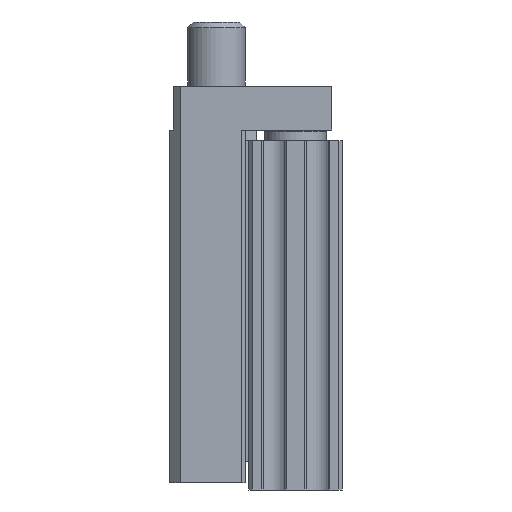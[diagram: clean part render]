
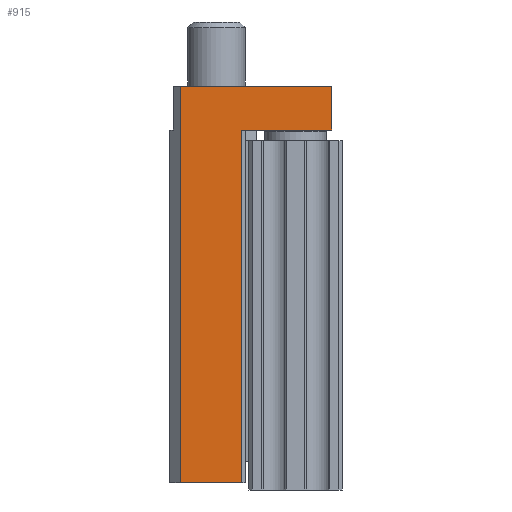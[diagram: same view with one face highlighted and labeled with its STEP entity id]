
A CAD part, left-side view. The second image highlights one B-rep face of the part: STEP entity #915.
In plain terms, the highlighted planar face has unit normal (-1, 0, 0).
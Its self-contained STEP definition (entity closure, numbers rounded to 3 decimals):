
#915 = ADVANCED_FACE( '', ( #2176 ), #2177, .T. );
#2176 = FACE_OUTER_BOUND( '', #3899, .T. );
#2177 = PLANE( '', #3900 );
#3899 = EDGE_LOOP( '', ( #6385, #6386, #6387, #6388, #6389, #6390 ) );
#3900 = AXIS2_PLACEMENT_3D( '', #6391, #6392, #6393 );
#6385 = ORIENTED_EDGE( '', *, *, #10071, .T. );
#6386 = ORIENTED_EDGE( '', *, *, #10072, .T. );
#6387 = ORIENTED_EDGE( '', *, *, #10073, .F. );
#6388 = ORIENTED_EDGE( '', *, *, #10074, .F. );
#6389 = ORIENTED_EDGE( '', *, *, #9527, .F. );
#6390 = ORIENTED_EDGE( '', *, *, #10075, .T. );
#6391 = CARTESIAN_POINT( '', ( -20., 22.5, -49. ) );
#6392 = DIRECTION( '', ( -1., 0., 0. ) );
#6393 = DIRECTION( '', ( 0., 0., 1. ) );
#9527 = EDGE_CURVE( '', #11290, #11292, #11293, .T. );
#10071 = EDGE_CURVE( '', #12193, #12194, #12195, .T. );
#10072 = EDGE_CURVE( '', #12194, #12196, #12197, .T. );
#10073 = EDGE_CURVE( '', #12198, #12196, #12199, .T. );
#10074 = EDGE_CURVE( '', #11292, #12198, #12200, .T. );
#10075 = EDGE_CURVE( '', #11290, #12193, #12201, .T. );
#11290 = VERTEX_POINT( '', #13824 );
#11292 = VERTEX_POINT( '', #13827 );
#11293 = LINE( '', #13828, #13829 );
#12193 = VERTEX_POINT( '', #15073 );
#12194 = VERTEX_POINT( '', #15074 );
#12195 = LINE( '', #15075, #15076 );
#12196 = VERTEX_POINT( '', #15077 );
#12197 = LINE( '', #15078, #15079 );
#12198 = VERTEX_POINT( '', #15080 );
#12199 = LINE( '', #15081, #15082 );
#12200 = LINE( '', #15083, #15084 );
#12201 = LINE( '', #15085, #15086 );
#13824 = CARTESIAN_POINT( '', ( -20., 22.5, -49. ) );
#13827 = CARTESIAN_POINT( '', ( -20., 22.5, 6. ) );
#13828 = CARTESIAN_POINT( '', ( -20., 22.5, -49. ) );
#13829 = VECTOR( '', #16886, 1000. );
#15073 = CARTESIAN_POINT( '', ( -20., 14., -49. ) );
#15074 = CARTESIAN_POINT( '', ( -20., 14., 0. ) );
#15075 = CARTESIAN_POINT( '', ( -20., 14., -49. ) );
#15076 = VECTOR( '', #17477, 1000. );
#15077 = CARTESIAN_POINT( '', ( -20., 1.5, 0. ) );
#15078 = CARTESIAN_POINT( '', ( -20., 22.5, 0. ) );
#15079 = VECTOR( '', #17478, 1000. );
#15080 = CARTESIAN_POINT( '', ( -20., 1.5, 6. ) );
#15081 = CARTESIAN_POINT( '', ( -20., 1.5, 6. ) );
#15082 = VECTOR( '', #17479, 1000. );
#15083 = CARTESIAN_POINT( '', ( -20., 22.5, 6. ) );
#15084 = VECTOR( '', #17480, 1000. );
#15085 = CARTESIAN_POINT( '', ( -20., 22.5, -49. ) );
#15086 = VECTOR( '', #17481, 1000. );
#16886 = DIRECTION( '', ( 0., 0., 1. ) );
#17477 = DIRECTION( '', ( 0., 0., 1. ) );
#17478 = DIRECTION( '', ( 0., -1., 0. ) );
#17479 = DIRECTION( '', ( 0., 0., -1. ) );
#17480 = DIRECTION( '', ( 0., -1., 0. ) );
#17481 = DIRECTION( '', ( 0., -1., 0. ) );
